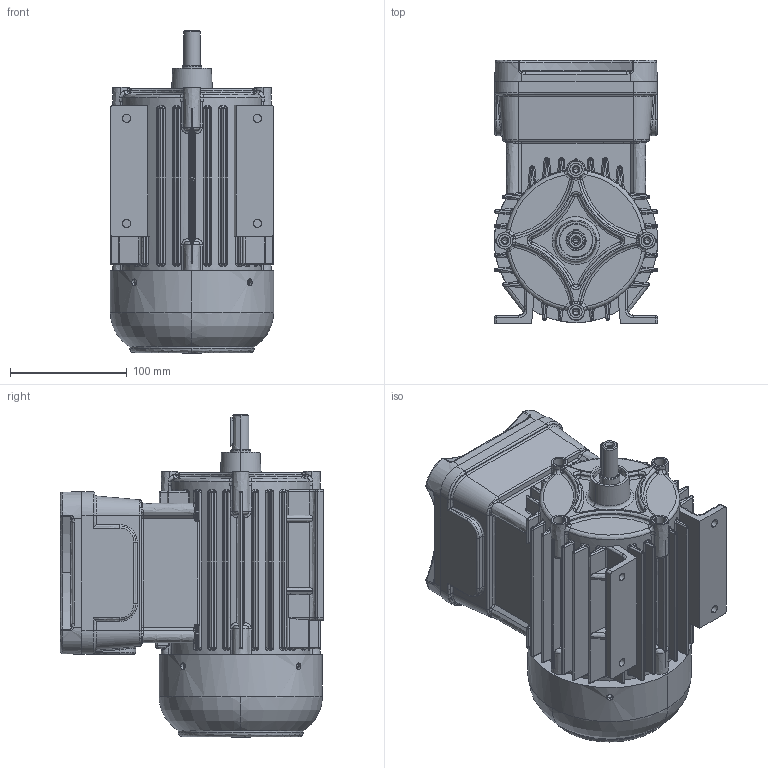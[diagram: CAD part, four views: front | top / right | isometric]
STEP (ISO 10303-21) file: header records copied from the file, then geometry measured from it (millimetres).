
FILE_DESCRIPTION (( 'STEP AP214' ), '1' );
FILE_NAME ('6RD71B4E2 IM1001.STEP', '2021-10-01T06:37:50', ( '' ), ( '' ), 'SwSTEP 2.0', 'SolidWorks 2018', '' );
FILE_SCHEMA (( 'AUTOMOTIVE_DESIGN' ));
Length unit declared in the file: millimetre
Products named in the file (1): 6RD71B4E2 IM1001
Bounding box: 140 x 225.5 x 276.21 mm (x, y, z)
Volume: 4473598.6 mm3; surface area: 332045.4 mm2
Topology: 1 solids, 1 shells, 1692 faces, 4097 edges, 2370 vertices
Faces by surface type: bspline 1692
Entity records: 89796 total; most frequent: CARTESIAN_POINT 66473, ORIENTED_EDGE 7938, EDGE_CURVE 3969, B_SPLINE_CURVE_WITH_KNOTS 2643, VERTEX_POINT 2370, EDGE_LOOP 1791, FACE_OUTER_BOUND 1692, ADVANCED_FACE 1692
